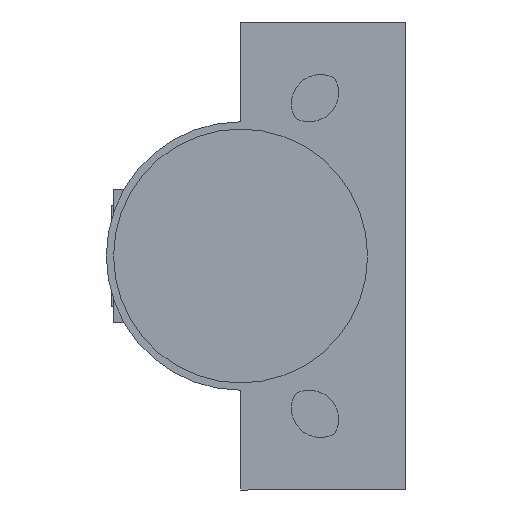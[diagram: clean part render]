
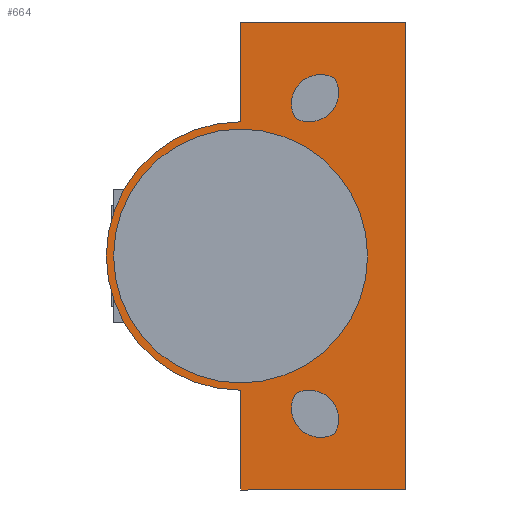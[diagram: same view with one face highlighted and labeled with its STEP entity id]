
A CAD part, front view. The second image highlights one B-rep face of the part: STEP entity #664.
In plain terms, the highlighted planar face has unit normal (0, -1, 0).
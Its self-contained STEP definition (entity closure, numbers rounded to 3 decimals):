
#5 = VERTEX_POINT ( 'NONE', #488 ) ;
#16 = CARTESIAN_POINT ( 'NONE',  ( 21.5, -38.5, 18.5 ) ) ;
#33 = EDGE_CURVE ( 'NONE', #1154, #684, #839, .T. ) ;
#85 = ORIENTED_EDGE ( 'NONE', *, *, #445, .T. ) ;
#127 = DIRECTION ( 'NONE',  ( -1., 0., 0. ) ) ;
#130 = VERTEX_POINT ( 'NONE', #1428 ) ;
#135 = EDGE_CURVE ( 'NONE', #798, #233, #648, .T. ) ;
#141 = DIRECTION ( 'NONE',  ( 1., 0., 0. ) ) ;
#199 = LINE ( 'NONE', #692, #391 ) ;
#200 = CIRCLE ( 'NONE', #1680, 4. ) ;
#205 = EDGE_CURVE ( 'NONE', #130, #359, #1248, .T. ) ;
#206 = ORIENTED_EDGE ( 'NONE', *, *, #1485, .F. ) ;
#223 = AXIS2_PLACEMENT_3D ( 'NONE', #248, #1294, #514 ) ;
#233 = VERTEX_POINT ( 'NONE', #16 ) ;
#235 = CARTESIAN_POINT ( 'NONE',  ( 21.5, -38.5, 0. ) ) ;
#243 = FACE_BOUND ( 'NONE', #1324, .T. ) ;
#244 = CARTESIAN_POINT ( 'NONE',  ( 21.5, -38.5, 0. ) ) ;
#248 = CARTESIAN_POINT ( 'NONE',  ( 32.5, -38.5, -21. ) ) ;
#250 = CARTESIAN_POINT ( 'NONE',  ( 39., -38.5, 0. ) ) ;
#291 = FACE_BOUND ( 'NONE', #354, .T. ) ;
#292 = VECTOR ( 'NONE', #141, 1000. ) ;
#293 = CARTESIAN_POINT ( 'NONE',  ( 29.023, -38.5, 19.023 ) ) ;
#310 = VECTOR ( 'NONE', #508, 1000. ) ;
#329 = CIRCLE ( 'NONE', #362, 4. ) ;
#348 = DIRECTION ( 'NONE',  ( 0., -1., 0. ) ) ;
#354 = EDGE_LOOP ( 'NONE', ( #1219, #1629 ) ) ;
#355 = CARTESIAN_POINT ( 'NONE',  ( 44.25, -38.5, -32.25 ) ) ;
#359 = VERTEX_POINT ( 'NONE', #721 ) ;
#362 = AXIS2_PLACEMENT_3D ( 'NONE', #895, #1163, #1272 ) ;
#371 = LINE ( 'NONE', #374, #310 ) ;
#374 = CARTESIAN_POINT ( 'NONE',  ( 21.5, -38.5, -31. ) ) ;
#377 = ORIENTED_EDGE ( 'NONE', *, *, #1061, .F. ) ;
#385 = ORIENTED_EDGE ( 'NONE', *, *, #1406, .F. ) ;
#391 = VECTOR ( 'NONE', #1074, 1000. ) ;
#404 = DIRECTION ( 'NONE',  ( -1., 0., 0. ) ) ;
#417 = LINE ( 'NONE', #1371, #1607 ) ;
#445 = EDGE_CURVE ( 'NONE', #1158, #972, #417, .T. ) ;
#474 = EDGE_LOOP ( 'NONE', ( #911, #85, #385, #1100, #776, #554 ) ) ;
#488 = CARTESIAN_POINT ( 'NONE',  ( 28.5, -38.5, 21. ) ) ;
#490 = CARTESIAN_POINT ( 'NONE',  ( 4., -38.5, 0. ) ) ;
#504 = DIRECTION ( 'NONE',  ( -1., 0., 0. ) ) ;
#508 = DIRECTION ( 'NONE',  ( 0., 0., 1. ) ) ;
#514 = DIRECTION ( 'NONE',  ( 1., 0., 0. ) ) ;
#554 = ORIENTED_EDGE ( 'NONE', *, *, #135, .F. ) ;
#577 = EDGE_CURVE ( 'NONE', #1158, #798, #371, .T. ) ;
#580 = AXIS2_PLACEMENT_3D ( 'NONE', #244, #1567, #127 ) ;
#594 = DIRECTION ( 'NONE',  ( 0., -1., 0. ) ) ;
#601 = DIRECTION ( 'NONE',  ( 1., 0., 0. ) ) ;
#608 = EDGE_CURVE ( 'NONE', #1628, #1374, #329, .T. ) ;
#620 = CIRCLE ( 'NONE', #223, 4. ) ;
#622 = DIRECTION ( 'NONE',  ( -1., 0., 0. ) ) ;
#628 = ORIENTED_EDGE ( 'NONE', *, *, #714, .F. ) ;
#648 = CIRCLE ( 'NONE', #580, 18.5 ) ;
#664 = ADVANCED_FACE ( 'NONE', ( #1626, #1024, #291, #243 ), #1022, .F. ) ;
#672 = CARTESIAN_POINT ( 'NONE',  ( 32.5, -38.5, 21. ) ) ;
#682 = DIRECTION ( 'NONE',  ( 0., -1., 0. ) ) ;
#684 = VERTEX_POINT ( 'NONE', #250 ) ;
#686 = CARTESIAN_POINT ( 'NONE',  ( 31., -38.5, 22.5 ) ) ;
#692 = CARTESIAN_POINT ( 'NONE',  ( 44.25, -38.5, 32.25 ) ) ;
#702 = ORIENTED_EDGE ( 'NONE', *, *, #1344, .F. ) ;
#711 = AXIS2_PLACEMENT_3D ( 'NONE', #235, #1527, #504 ) ;
#714 = EDGE_CURVE ( 'NONE', #1322, #5, #1394, .T. ) ;
#721 = CARTESIAN_POINT ( 'NONE',  ( 44.25, -38.5, 32.25 ) ) ;
#730 = CARTESIAN_POINT ( 'NONE',  ( 21.5, -38.5, 0. ) ) ;
#733 = LINE ( 'NONE', #1429, #785 ) ;
#762 = DIRECTION ( 'NONE',  ( 0., 0., 1. ) ) ;
#776 = ORIENTED_EDGE ( 'NONE', *, *, #1202, .F. ) ;
#782 = CIRCLE ( 'NONE', #1316, 4. ) ;
#785 = VECTOR ( 'NONE', #762, 1000. ) ;
#786 = CARTESIAN_POINT ( 'NONE',  ( 21.5, -38.5, -18.5 ) ) ;
#789 = CARTESIAN_POINT ( 'NONE',  ( 21.5, -38.5, 0. ) ) ;
#798 = VERTEX_POINT ( 'NONE', #786 ) ;
#804 = CARTESIAN_POINT ( 'NONE',  ( 34.477, -38.5, 24.477 ) ) ;
#839 = CIRCLE ( 'NONE', #1108, 17.5 ) ;
#841 = ORIENTED_EDGE ( 'NONE', *, *, #1164, .F. ) ;
#855 = ORIENTED_EDGE ( 'NONE', *, *, #608, .F. ) ;
#858 = CARTESIAN_POINT ( 'NONE',  ( 32.5, -38.5, 21. ) ) ;
#895 = CARTESIAN_POINT ( 'NONE',  ( 31., -38.5, -22.5 ) ) ;
#905 = CIRCLE ( 'NONE', #1594, 17.5 ) ;
#911 = ORIENTED_EDGE ( 'NONE', *, *, #577, .F. ) ;
#940 = EDGE_CURVE ( 'NONE', #684, #1154, #905, .T. ) ;
#945 = CIRCLE ( 'NONE', #1653, 4. ) ;
#972 = VERTEX_POINT ( 'NONE', #355 ) ;
#1011 = CARTESIAN_POINT ( 'NONE',  ( 28.5, -38.5, -21. ) ) ;
#1022 = PLANE ( 'NONE',  #711 ) ;
#1024 = FACE_BOUND ( 'NONE', #1323, .T. ) ;
#1061 = EDGE_CURVE ( 'NONE', #5, #1399, #200, .T. ) ;
#1074 = DIRECTION ( 'NONE',  ( 0., 0., -1. ) ) ;
#1100 = ORIENTED_EDGE ( 'NONE', *, *, #205, .F. ) ;
#1108 = AXIS2_PLACEMENT_3D ( 'NONE', #789, #1308, #404 ) ;
#1121 = CARTESIAN_POINT ( 'NONE',  ( 32.5, -38.5, -21. ) ) ;
#1140 = DIRECTION ( 'NONE',  ( 0., -1., 0. ) ) ;
#1154 = VERTEX_POINT ( 'NONE', #490 ) ;
#1158 = VERTEX_POINT ( 'NONE', #1286 ) ;
#1163 = DIRECTION ( 'NONE',  ( 0., -1., 0. ) ) ;
#1164 = EDGE_CURVE ( 'NONE', #1374, #1589, #620, .T. ) ;
#1202 = EDGE_CURVE ( 'NONE', #233, #130, #733, .T. ) ;
#1219 = ORIENTED_EDGE ( 'NONE', *, *, #33, .F. ) ;
#1248 = LINE ( 'NONE', #1605, #292 ) ;
#1256 = DIRECTION ( 'NONE',  ( 1., 0., 0. ) ) ;
#1272 = DIRECTION ( 'NONE',  ( 1., 0., 0. ) ) ;
#1286 = CARTESIAN_POINT ( 'NONE',  ( 21.5, -38.5, -32.25 ) ) ;
#1294 = DIRECTION ( 'NONE',  ( 0., -1., 0. ) ) ;
#1308 = DIRECTION ( 'NONE',  ( 0., -1., 0. ) ) ;
#1316 = AXIS2_PLACEMENT_3D ( 'NONE', #1121, #348, #601 ) ;
#1322 = VERTEX_POINT ( 'NONE', #804 ) ;
#1323 = EDGE_LOOP ( 'NONE', ( #702, #377, #628 ) ) ;
#1324 = EDGE_LOOP ( 'NONE', ( #855, #206, #841 ) ) ;
#1344 = EDGE_CURVE ( 'NONE', #1399, #1322, #945, .T. ) ;
#1371 = CARTESIAN_POINT ( 'NONE',  ( 44.25, -38.5, -32.25 ) ) ;
#1374 = VERTEX_POINT ( 'NONE', #1617 ) ;
#1394 = CIRCLE ( 'NONE', #1658, 4. ) ;
#1399 = VERTEX_POINT ( 'NONE', #293 ) ;
#1406 = EDGE_CURVE ( 'NONE', #359, #972, #199, .T. ) ;
#1428 = CARTESIAN_POINT ( 'NONE',  ( 21.5, -38.5, 32.25 ) ) ;
#1429 = CARTESIAN_POINT ( 'NONE',  ( 21.5, -38.5, 18.5 ) ) ;
#1485 = EDGE_CURVE ( 'NONE', #1589, #1628, #782, .T. ) ;
#1527 = DIRECTION ( 'NONE',  ( 0., 1., 0. ) ) ;
#1567 = DIRECTION ( 'NONE',  ( 0., 1., 0. ) ) ;
#1569 = DIRECTION ( 'NONE',  ( 1., 0., 0. ) ) ;
#1585 = DIRECTION ( 'NONE',  ( 0., -1., 0. ) ) ;
#1589 = VERTEX_POINT ( 'NONE', #1011 ) ;
#1593 = DIRECTION ( 'NONE',  ( 1., 0., 0. ) ) ;
#1594 = AXIS2_PLACEMENT_3D ( 'NONE', #730, #1140, #622 ) ;
#1605 = CARTESIAN_POINT ( 'NONE',  ( 44.25, -38.5, 32.25 ) ) ;
#1607 = VECTOR ( 'NONE', #1256, 1000. ) ;
#1617 = CARTESIAN_POINT ( 'NONE',  ( 29.023, -38.5, -19.023 ) ) ;
#1626 = FACE_OUTER_BOUND ( 'NONE', #474, .T. ) ;
#1628 = VERTEX_POINT ( 'NONE', #1696 ) ;
#1629 = ORIENTED_EDGE ( 'NONE', *, *, #940, .F. ) ;
#1640 = DIRECTION ( 'NONE',  ( 1., 0., 0. ) ) ;
#1653 = AXIS2_PLACEMENT_3D ( 'NONE', #686, #1585, #1593 ) ;
#1658 = AXIS2_PLACEMENT_3D ( 'NONE', #672, #682, #1569 ) ;
#1680 = AXIS2_PLACEMENT_3D ( 'NONE', #858, #594, #1640 ) ;
#1696 = CARTESIAN_POINT ( 'NONE',  ( 34.477, -38.5, -24.477 ) ) ;
